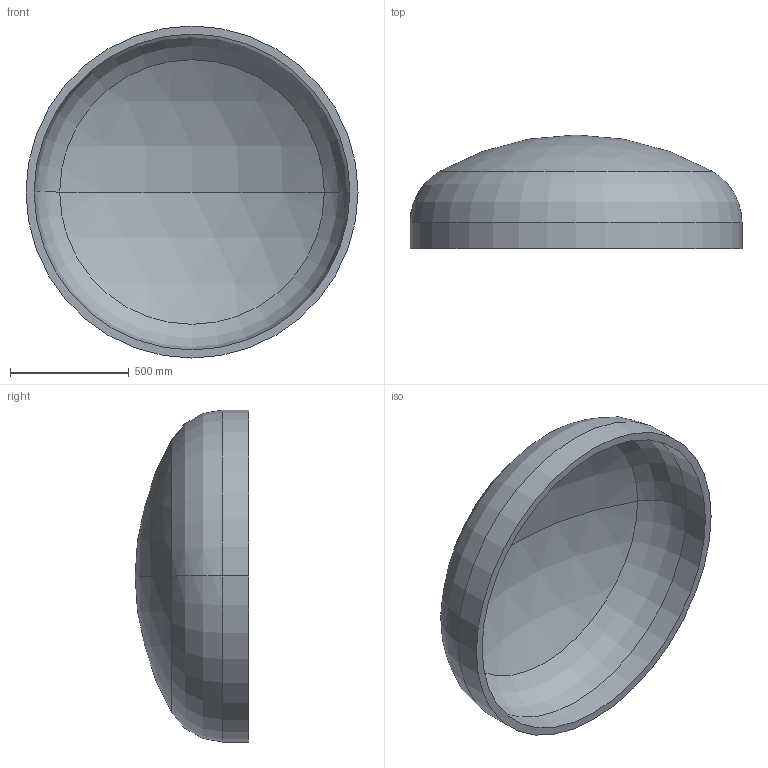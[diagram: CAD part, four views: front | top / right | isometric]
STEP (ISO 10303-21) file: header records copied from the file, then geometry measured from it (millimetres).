
FILE_DESCRIPTION (( 'STEP AP203' ), '1' );
FILE_NAME ('DIN 28013 Korbbogenform_-_Boden DIN 28013 - 1400 x 110 - I - s=34.step', '2016-07-01T10:15:32', ( '' ), ( '' ), 'SwSTEP 2.0', 'SolidWorks 2013', '' );
FILE_SCHEMA (( 'CONFIG_CONTROL_DESIGN' ));
Length unit declared in the file: millimetre
Products named in the file (1): DIN 28013 Korbbogenform_-_Boden DIN 28013 - 1400 x 110 - I - s=34
Bounding box: 1400 x 479.38 x 1400 mm (x, y, z)
Volume: 86225696.8 mm3; surface area: 5220427.6 mm2
Topology: 1 solids, 1 shells, 13 faces, 24 edges, 14 vertices
Faces by surface type: torus 4, cylinder 4, sphere 4, plane 1
Entity records: 407 total; most frequent: DIRECTION 72, CARTESIAN_POINT 52, ORIENTED_EDGE 48, AXIS2_PLACEMENT_3D 34, EDGE_CURVE 24, CIRCLE 20, VERTEX_POINT 14, EDGE_LOOP 14
